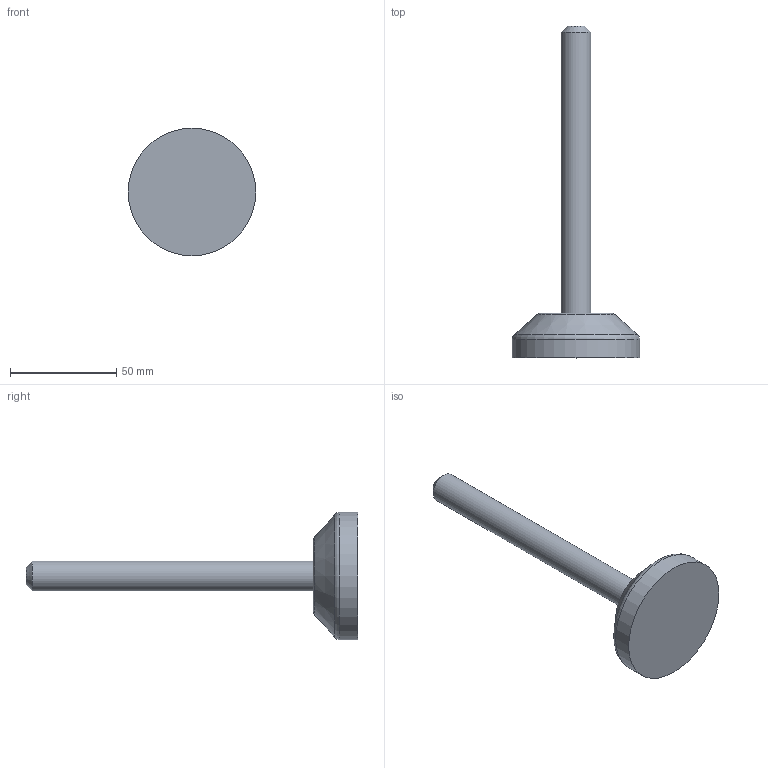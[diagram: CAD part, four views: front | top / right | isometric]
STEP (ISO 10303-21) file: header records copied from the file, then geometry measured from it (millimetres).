
FILE_DESCRIPTION (( 'STEP AP214' ), '1' );
FILE_NAME ('F21804.step', '2024-12-03T16:15:36', ( '' ), ( '' ), 'SwSTEP 2.0', 'SolidWorks 2023', '' );
FILE_SCHEMA (( 'AUTOMOTIVE_DESIGN' ));
Length unit declared in the file: millimetre
Products named in the file (1): F21804
Bounding box: 60 x 156 x 60 mm (x, y, z)
Volume: 68766.3 mm3; surface area: 13964.3 mm2
Topology: 1 solids, 1 shells, 9 faces, 17 edges, 11 vertices
Faces by surface type: plane 3, cylinder 2, cone 2, torus 2
Full cylindrical faces by diameter (mm): 14 x1, 60 x1
Entity records: 197 total; most frequent: DIRECTION 36, CARTESIAN_POINT 26, AXIS2_PLACEMENT_3D 18, EDGE_LOOP 16, ORIENTED_EDGE 16, FACE_OUTER_BOUND 13, ADVANCED_FACE 9, VERTEX_POINT 8
